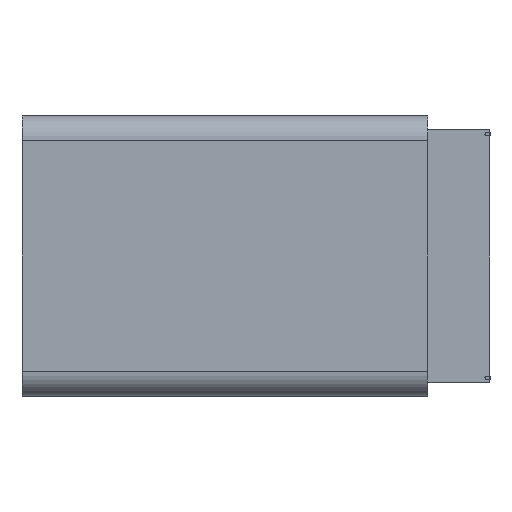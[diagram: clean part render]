
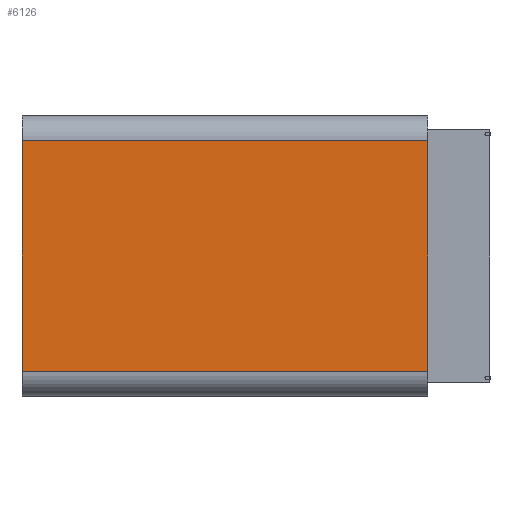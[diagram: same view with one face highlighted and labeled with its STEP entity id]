
A CAD part, left-side view. The second image highlights one B-rep face of the part: STEP entity #6126.
In plain terms, the highlighted planar face has unit normal (-1, 0, 0).
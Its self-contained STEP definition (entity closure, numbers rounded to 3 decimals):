
#30 = ORIENTED_EDGE ( 'NONE', *, *, #3889, .T. ) ;
#193 = VECTOR ( 'NONE', #918, 1000. ) ;
#369 = EDGE_LOOP ( 'NONE', ( #30, #3440, #5795, #5501 ) ) ;
#486 = VECTOR ( 'NONE', #3901, 1000. ) ;
#665 = DIRECTION ( 'NONE',  ( 0., 0., -1. ) ) ;
#696 = AXIS2_PLACEMENT_3D ( 'NONE', #1150, #3129, #665 ) ;
#768 = CARTESIAN_POINT ( 'NONE',  ( -1099., 650., -185. ) ) ;
#881 = CARTESIAN_POINT ( 'NONE',  ( -1099., 650., -185. ) ) ;
#918 = DIRECTION ( 'NONE',  ( 0., 1., 0. ) ) ;
#1150 = CARTESIAN_POINT ( 'NONE',  ( -1099., 650., -225. ) ) ;
#1474 = VERTEX_POINT ( 'NONE', #1978 ) ;
#1524 = CARTESIAN_POINT ( 'NONE',  ( -1099., 0., -185. ) ) ;
#1635 = VECTOR ( 'NONE', #6237, 1000. ) ;
#1681 = CARTESIAN_POINT ( 'NONE',  ( -1099., 0., -225. ) ) ;
#1734 = CARTESIAN_POINT ( 'NONE',  ( -1099., 650., -225. ) ) ;
#1909 = CARTESIAN_POINT ( 'NONE',  ( -1099., 0., 185. ) ) ;
#1978 = CARTESIAN_POINT ( 'NONE',  ( -1099., 650., 185. ) ) ;
#2957 = LINE ( 'NONE', #881, #486 ) ;
#3129 = DIRECTION ( 'NONE',  ( 1., 0., 0. ) ) ;
#3303 = VERTEX_POINT ( 'NONE', #1524 ) ;
#3440 = ORIENTED_EDGE ( 'NONE', *, *, #4031, .T. ) ;
#3594 = DIRECTION ( 'NONE',  ( 0., 0., 1. ) ) ;
#3619 = PLANE ( 'NONE',  #696 ) ;
#3711 = VERTEX_POINT ( 'NONE', #1909 ) ;
#3889 = EDGE_CURVE ( 'NONE', #3303, #3711, #5191, .T. ) ;
#3901 = DIRECTION ( 'NONE',  ( 0., -1., 0. ) ) ;
#4031 = EDGE_CURVE ( 'NONE', #3711, #1474, #5855, .T. ) ;
#4241 = VECTOR ( 'NONE', #3594, 1000. ) ;
#4262 = LINE ( 'NONE', #1734, #1635 ) ;
#4977 = CARTESIAN_POINT ( 'NONE',  ( -1099., 650., 185. ) ) ;
#5191 = LINE ( 'NONE', #1681, #4241 ) ;
#5501 = ORIENTED_EDGE ( 'NONE', *, *, #6349, .T. ) ;
#5750 = VERTEX_POINT ( 'NONE', #768 ) ;
#5795 = ORIENTED_EDGE ( 'NONE', *, *, #6223, .F. ) ;
#5855 = LINE ( 'NONE', #4977, #193 ) ;
#6078 = FACE_OUTER_BOUND ( 'NONE', #369, .T. ) ;
#6126 = ADVANCED_FACE ( 'NONE', ( #6078 ), #3619, .F. ) ;
#6223 = EDGE_CURVE ( 'NONE', #5750, #1474, #4262, .T. ) ;
#6237 = DIRECTION ( 'NONE',  ( 0., 0., 1. ) ) ;
#6349 = EDGE_CURVE ( 'NONE', #5750, #3303, #2957, .T. ) ;
